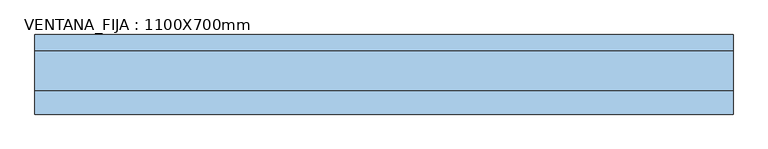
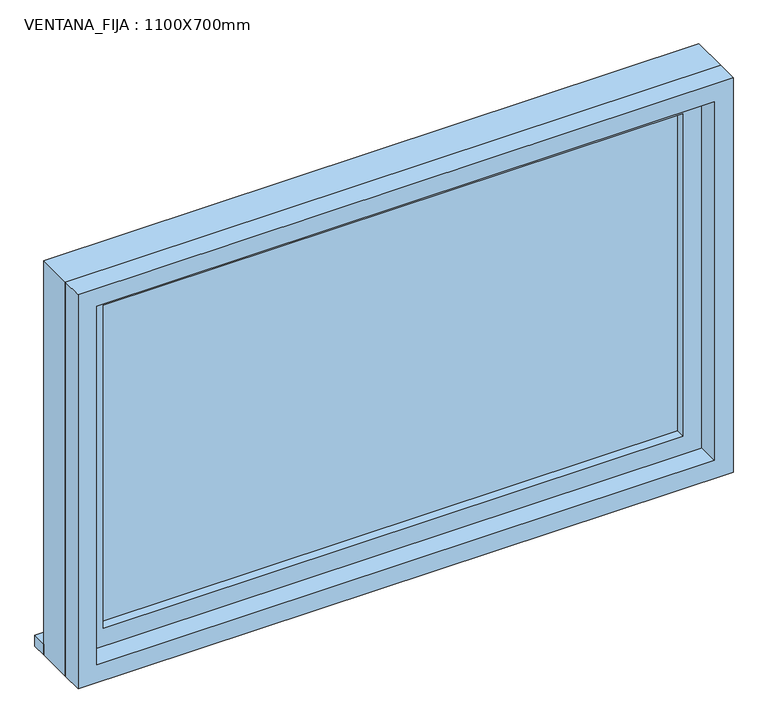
"""IFC4 building model written with IfcOpenShell, lengths in millimetres: window geometry, VENTANA_FIJA : 1100X700mm."""

from ifc_helpers import new_model, si_unit, frame, origin, place, context, project, spatial, polyline, outline, extrude, source, transform, mapped, element, save


def ventana_fija_1100x700mm_4104369d(model_context):
    return source(origin(), model_context, "Body", "SweptSolid", [
        extrude(outline(polyline([(-588.1115886, 75.4), (511.9115886, 75.4), (511.9115886, 50.0), (-588.1115886, 50.0), (-588.1115886, 75.4)])), frame((0.0, 0.0, 1400.0), z_axis=(0.0, 0.0, 1.0), x_axis=(1.0, 0.0, 0.0)), (0.0, 0.0, 1.0), 19.05),
        extrude(outline(polyline([(448.4115886, 2.425), (-524.6115886, 2.425), (-524.6115886, 15.125), (448.4115886, 15.125), (448.4115886, 2.425)])), frame((0.0, 0.0, 1463.5), z_axis=(0.0, 0.0, 1.0), x_axis=(1.0, 0.0, 0.0)), (0.0, 0.0, 1.0), 573.0),
        extrude(outline(polyline([(2080.95, -569.0615886), (1419.05, -569.0615886), (1419.05, 492.8615886), (2080.95, 492.8615886), (2080.95, -569.0615886)]), holes=[polyline([(2036.5, -524.6115886), (2036.5, 448.4115886), (1463.5, 448.4115886), (1463.5, -524.6115886), (2036.5, -524.6115886)])]), frame((0.0, -13.45, 0.0), z_axis=(0.0, 1.0, 0.0), x_axis=(0.0, 0.0, 1.0)), (0.0, 0.0, 1.0), 44.45),
        extrude(outline(polyline([(2100.0, -588.1115886), (1400.0, -588.1115886), (1400.0, 511.9115886), (2100.0, 511.9115886), (2100.0, -588.1115886)]), holes=[polyline([(2068.25, -556.3615886), (2068.25, 480.1615886), (1431.75, 480.1615886), (1431.75, -556.3615886), (2068.25, -556.3615886)])]), frame((0.0, -50.0, 0.0), z_axis=(0.0, 1.0, 0.0), x_axis=(0.0, 0.0, 1.0)), (0.0, 0.0, 1.0), 36.55),
        extrude(outline(polyline([(2100.0, 511.9115886), (2100.0, -588.1115886), (1400.0, -588.1115886), (1400.0, 511.9115886), (2100.0, 511.9115886)]), holes=[polyline([(2080.95, 492.8615886), (1419.05, 492.8615886), (1419.05, -569.0615886), (2080.95, -569.0615886), (2080.95, 492.8615886)])]), frame((0.0, -13.45, 0.0), z_axis=(0.0, 1.0, 0.0), x_axis=(0.0, 0.0, 1.0)), (0.0, 0.0, 1.0), 63.45),
    ])


if __name__ == "__main__":
    model = new_model("IFC4")
    model_context = context("Model", 3, world=origin())
    ifc_project = project(units=[si_unit("LENGTHUNIT", "METRE", prefix="MILLI")], contexts=[model_context])
    site = spatial("IfcSite", under=ifc_project)
    building = spatial("IfcBuilding", under=site)
    placement = place(None, origin())
    ventana_fija_1100x700mm_shape = ventana_fija_1100x700mm_4104369d(model_context)
    element("IfcWindow", 1, ObjectType="VENTANA_FIJA : 1100X700mm", at=placement, inside=building, context=model_context, shape_type="MappedRepresentation", body=[
        mapped(ventana_fija_1100x700mm_shape, transform((0.0, 0.0, 0.0), x_axis=(1.0, 0.0, 0.0), y_axis=(0.0, 1.0, 0.0), z_axis=(0.0, 0.0, 1.0))),
    ])
    save(model, "model.ifc")
